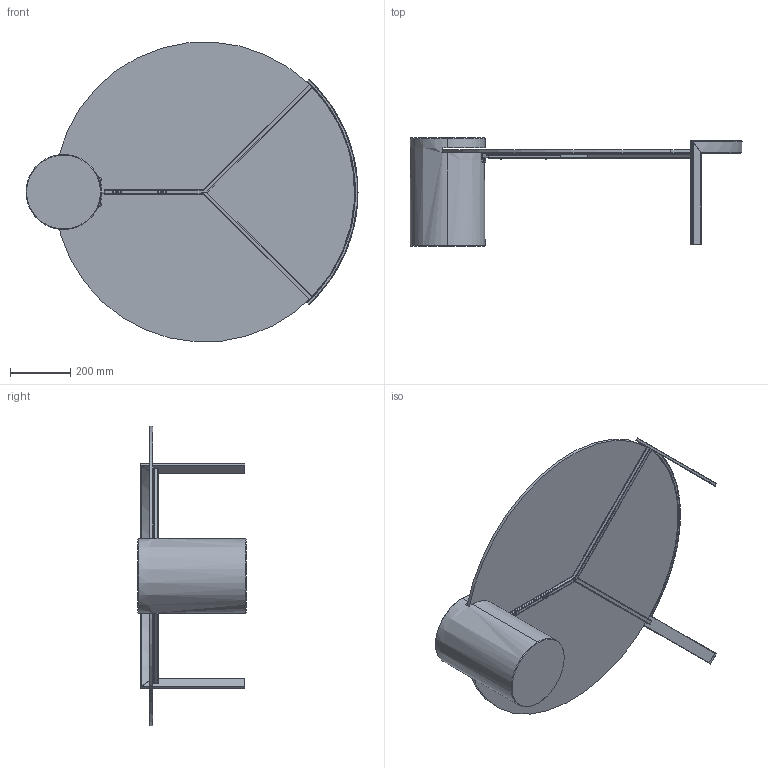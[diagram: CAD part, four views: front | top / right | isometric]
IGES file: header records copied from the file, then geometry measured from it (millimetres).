
Start section: SolidWorks IGES file using analytic representation for surfaces
Global section: file name: Y:\eforma\TECNICO\SOLIDWORKS\E-FORMA\2-TAVOLINI\PEO-PERRY COFFEE TABLE\02 parts\PE03G_Peo Low_d.100x32h_Glass.IGS; native system: SolidWorks 2022; preprocessor: SolidWorks 2022; author: eforma.tech; date: 240806.135054; units: millimetre
Bounding box: 1106 x 360 x 998.38 mm (x, y, z)
Volume: 25294961 mm3; surface area: 2469899.9 mm2
Topology: 14 solids, 14 shells, 305 faces, 757 edges, 458 vertices
Faces by surface type: revolution 168, plane 133, bspline 4
